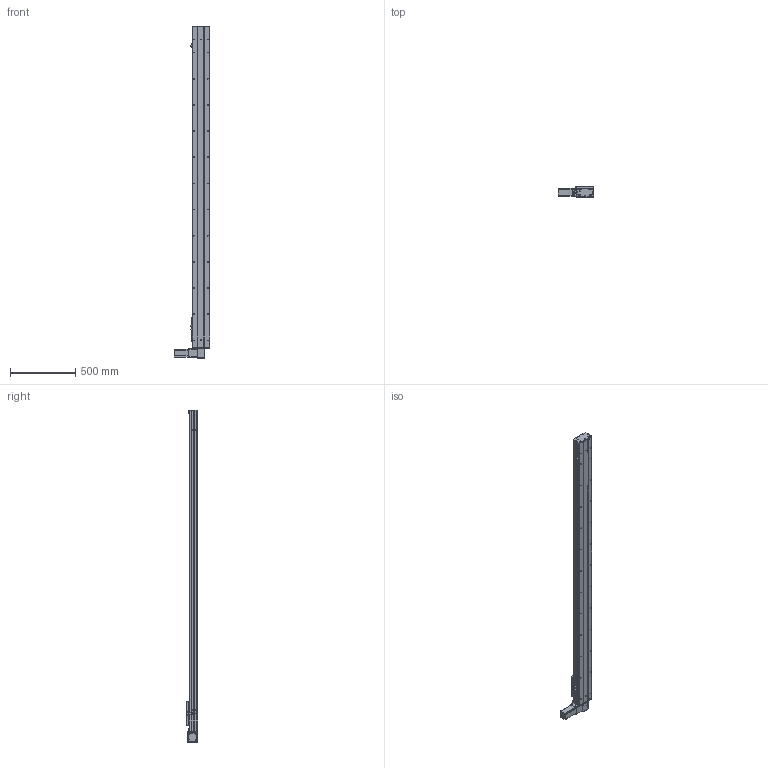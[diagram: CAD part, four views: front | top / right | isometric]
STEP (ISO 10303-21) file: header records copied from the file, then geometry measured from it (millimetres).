
FILE_DESCRIPTION (( 'STEP AP203' ), '1' );
FILE_NAME ('Y135CB-D90-S2150-BD-P400W.STEP', '2020-02-19T03:58:48', ( '微软用户' ), ( '微软中国' ), 'SwSTEP 2.0', 'SolidWorks 2017', '' );
FILE_SCHEMA (( 'CONFIG_CONTROL_DESIGN' ));
Length unit declared in the file: millimetre
Products named in the file (16): 135CB--詩湍-CE; Y135CB-耜裔; Y100-135俋离換覜ん--; 135CB---遴掛极.-; Y135C-陔俋离換覜結え-; 35CB---喘謫眊楊擘啣; 5C--俋欶; 0B-埴倛裔啣; C-雄赽釱--; 0B-源倛裔啣; Y10B--々湍喘謫眊--666; san松下电机400不带刹车----; 0B-薊粣ん眊; 5CB --掛极耜裔啣-; Y135CB-D90-S2150-BD-P400W; C-詩湍揤踡え-陔
Assembly tree (19 placements, depth 2):
  Y135CB-D90-S2150-BD-P400W
    Y135CB-耜裔
    135CB---遴掛极.-
    35CB---喘謫眊楊擘啣
    0B-埴倛裔啣
    0B-源倛裔啣
    san松下电机400不带刹车----
    5CB --掛极耜裔啣-  x2
    C-詩湍揤踡え-陔  x2
    135CB--詩湍-CE
    Y100-135俋离換覜ん--  x3
    Y135C-陔俋离換覜結え-
    5C--俋欶
    C-雄赽釱--
    Y10B--々湍喘謫眊--666
    0B-薊粣ん眊
Bounding box: 272 x 91 x 2538 mm (x, y, z)
Volume: 7373183.4 mm3; surface area: 2871423.9 mm2
Topology: 19 solids, 19 shells, 879 faces, 2374 edges, 1572 vertices
Faces by surface type: cylinder 448, plane 415, cone 16
Entity records: 27218 total; most frequent: DIRECTION 4538, CARTESIAN_POINT 4511, ORIENTED_EDGE 4224, EDGE_CURVE 2112, AXIS2_PLACEMENT_3D 1671, VERTEX_POINT 1400, VECTOR 1196, LINE 1196
